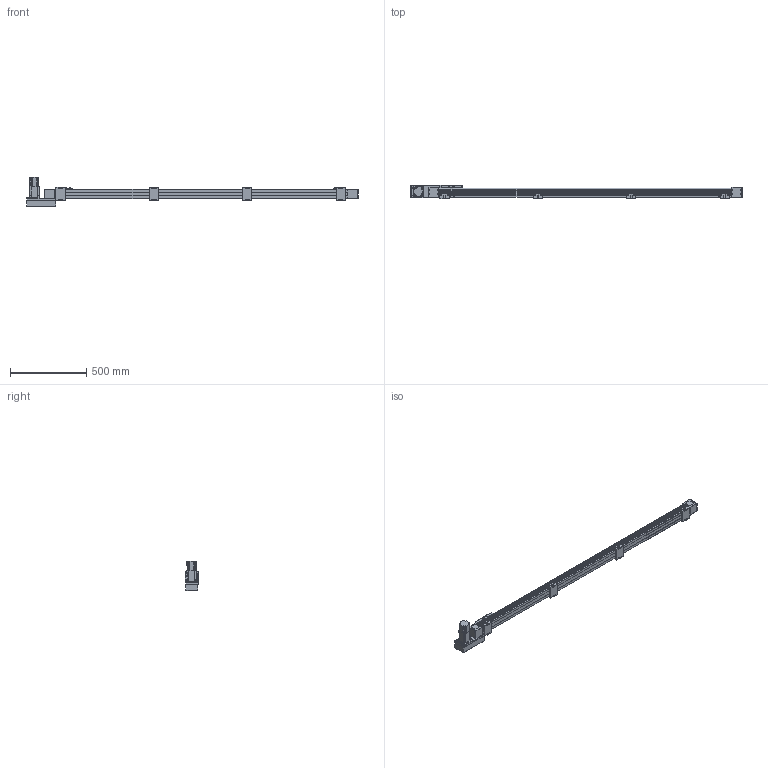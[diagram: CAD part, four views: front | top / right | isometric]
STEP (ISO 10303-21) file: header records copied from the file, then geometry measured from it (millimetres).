
FILE_DESCRIPTION(/* description */ ('STEP AP214'),/* implementation_level */ '2;1');
FILE_NAME(/* name */ 'SK60-P13-S1750-L-T40-C1-N(0)',/* time_stamp */ '2023-04-06T04:11:24+02:00',/* author */ ('License CC BY-ND 4.0'),/* organization */ ('CADENAS'),/* preprocessor_version */ 'ST-DEVELOPER v19.3',/* originating_system */ 'PARTsolutions',/* authorisation */ ' ');
FILE_SCHEMA (('AUTOMOTIVE_DESIGN {1 0 10303 214 3 1 1}'));
Length unit declared in the file: millimetre
Products named in the file (10): SK60-P13-S1750-L-T40-C1-N(0); PSC140-sensor; SK60-S450_seat; SK60-S450-BL-C1_slider; SK60_body3; SK60_body6; SK60-BL_body2; T40-p1; SK60-L_fb; SK60-S1750-L-C1_body
Assembly tree (18 placements, depth 2):
  SK60-P13-S1750-L-T40-C1-N(0)
    PSC140-sensor  x3
    SK60-S450_seat  x4
    SK60-S450-BL-C1_slider
    SK60_body3  x3
    SK60_body6  x2
    SK60-BL_body2  x2
    T40-p1
    SK60-L_fb
    SK60-S1750-L-C1_body
Bounding box: 2170.5 x 90 x 189.7 mm (x, y, z)
Volume: 8179586.6 mm3; surface area: 986920 mm2
Topology: 18 solids, 18 shells, 898 faces, 2244 edges, 1477 vertices
Faces by surface type: plane 572, cylinder 294, cone 30, torus 2
Full cylindrical faces by diameter (mm): 2.8 x3, 3.3 x4, 4 x2, 4.5 x30, 4.6 x3, 4.917 x24, 5 x6, 5.478 x4, 5.5 x27, 6.5 x8, 7 x2, 8 x4, 8.5 x4, 9.988 x4, 10 x16, 14 x1, 47 x3, 50 x2
Entity records: 18671 total; most frequent: DIRECTION 3188, CARTESIAN_POINT 3152, ORIENTED_EDGE 2940, EDGE_CURVE 1470, AXIS2_PLACEMENT_3D 1070, LINE 1048, VECTOR 1048, VERTEX_POINT 1034
